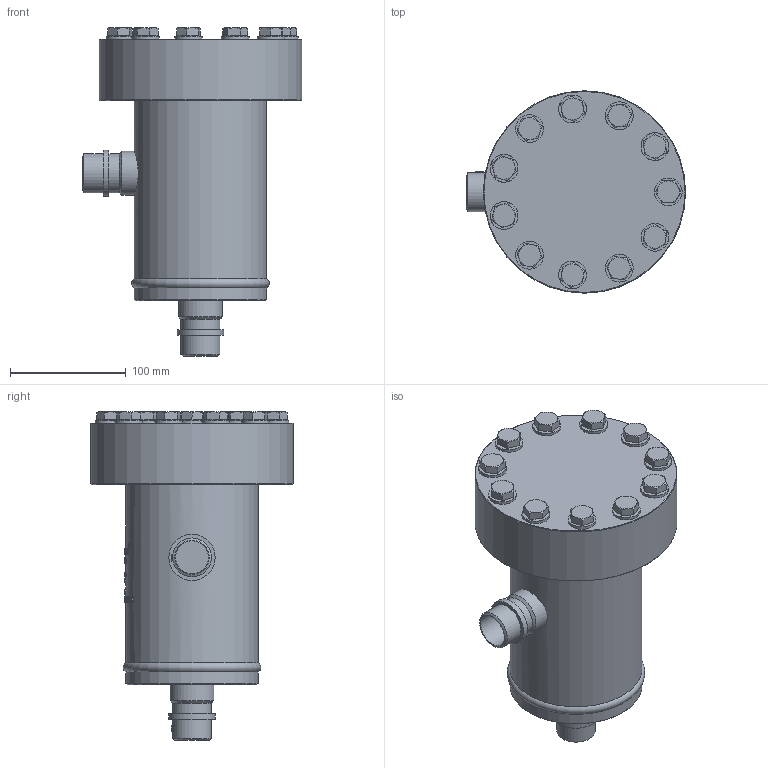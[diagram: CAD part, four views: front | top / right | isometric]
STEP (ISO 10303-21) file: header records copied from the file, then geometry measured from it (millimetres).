
FILE_DESCRIPTION(/* description */ (''),/* implementation_level */ '2;1');
FILE_NAME(/* name */ 'P:\FT\FT1-DN25-CDH\FT1-DN25-CDH.stp',/* time_stamp */ '2017-06-21T10:18:16+02:00',/* author */ ('neufeld'),/* organization */ (''),/* preprocessor_version */ 'ST-DEVELOPER v16.1',/* originating_system */ 'Autodesk Inventor 2016',/* authorisation */ '');
FILE_SCHEMA (('AUTOMOTIVE_DESIGN { 1 0 10303 214 3 1 1 }'));
Products named in the file (1): FT1-DN25-CDH_AG-Kunde
Bounding box: 189.65 x 175 x 284.2 mm (x, y, z)
Volume: 3159109 mm3; surface area: 165465.1 mm2
Topology: 1 solids, 1 shells, 1242 faces, 3284 edges, 2169 vertices
Faces by surface type: plane 538, bspline 506, cylinder 123, cone 74, torus 1
Full cylindrical faces by diameter (mm): 17.2 x11, 24 x11, 28.7 x2, 33.7 x4, 38 x2, 40 x2, 114.3 x2, 175 x1
Entity records: 47774 total; most frequent: CARTESIAN_POINT 20728, ORIENTED_EDGE 6416, DIRECTION 4074, EDGE_CURVE 3208, VERTEX_POINT 2142, LINE 1522, VECTOR 1522, EDGE_LOOP 1412
